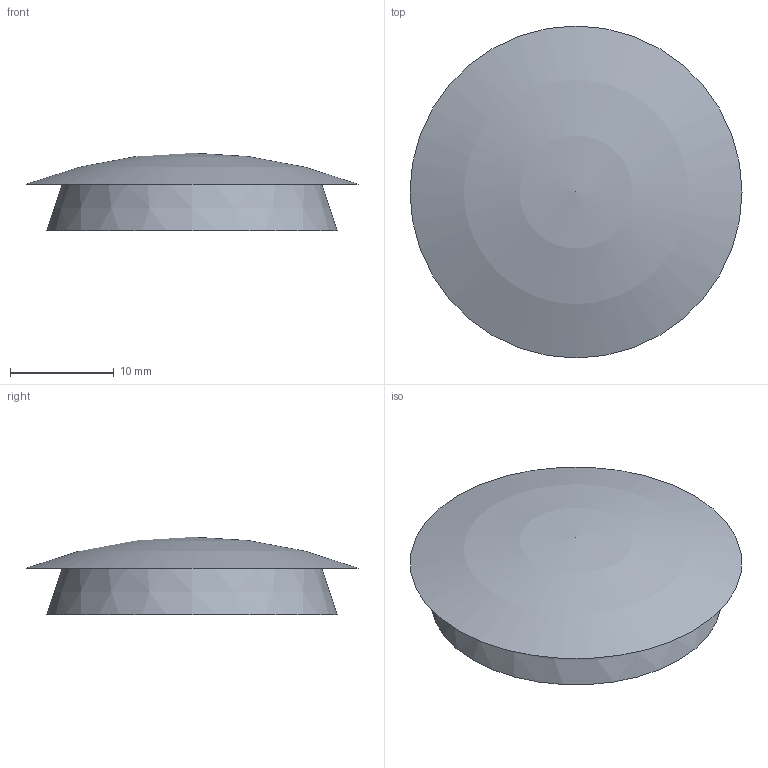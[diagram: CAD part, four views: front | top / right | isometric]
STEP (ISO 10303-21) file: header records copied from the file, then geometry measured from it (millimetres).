
FILE_DESCRIPTION(/* description */ (''),/* implementation_level */ '2;1');
FILE_NAME(/* name */ '\\NAS\db20\PR3-25\DR_PR3-25.stp',/* time_stamp */ '2017-09-22T11:46:46+09:00',/* author */ ('user'),/* organization */ (''),/* preprocessor_version */ 'ST-DEVELOPER v15.6',/* originating_system */ 'Autodesk Inventor 2015',/* authorisation */ '');
FILE_SCHEMA (('AP203_CONFIGURATION_CONTROLLED_3D_DESIGN_OF_MECHANICAL_PARTS_AND_ASSEMBLIES_MIM_LF','AUTOMOTIVE_DESIGN { 1 0 10303 214 3 1 1 }'));
Length unit declared in the file: millimetre
Products named in the file (1): DR_PR3-25
Bounding box: 32 x 32 x 7.5 mm (x, y, z)
Volume: 2211.9 mm3; surface area: 2462.9 mm2
Topology: 1 solids, 1 shells, 6 faces, 9 edges, 6 vertices
Faces by surface type: plane 3, cylinder 1, cone 1, sphere 1
Full cylindrical faces by diameter (mm): 19.5 x1
Entity records: 138 total; most frequent: DIRECTION 24, CARTESIAN_POINT 17, AXIS2_PLACEMENT_3D 12, EDGE_LOOP 10, ORIENTED_EDGE 10, FACE_OUTER_BOUND 6, ADVANCED_FACE 6, CIRCLE 5
